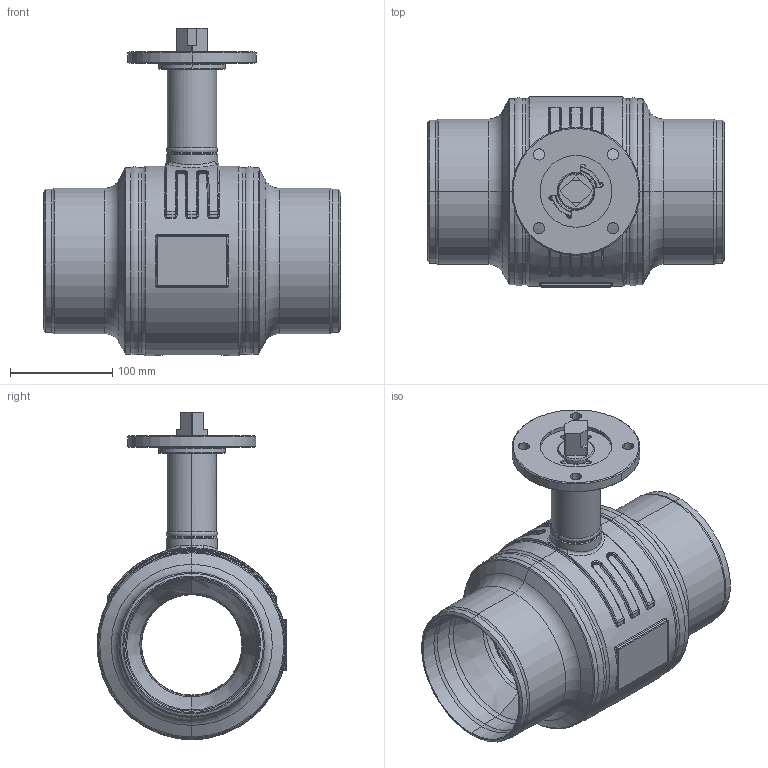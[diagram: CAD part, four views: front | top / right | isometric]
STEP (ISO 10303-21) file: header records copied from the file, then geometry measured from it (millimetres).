
FILE_DESCRIPTION((''),'2;1');
FILE_NAME('KHMO-S-R-H-125R100P04_SW0001','2025-04-22T14:41:26',('jeitlers'),('KLINGER'),'CREO PARAMETRIC BY PTC INC, 2023014','CREO PARAMETRIC BY PTC INC, 2023014','');
FILE_SCHEMA(('CONFIG_CONTROL_DESIGN'));
Length unit declared in the file: millimetre
Products named in the file (1): KHMO-S-R-H-125R100P04_SW0001
Bounding box: 290 x 185.5 x 319.5 mm (x, y, z)
Volume: 2438705.1 mm3; surface area: 602809.7 mm2
Topology: 2 solids, 2 shells, 552 faces, 1315 edges, 778 vertices
Faces by surface type: cylinder 190, torus 116, plane 104, cone 82, bspline 52, sphere 8
Entity records: 28128 total; most frequent: CARTESIAN_POINT 15350, DIRECTION 2831, ORIENTED_EDGE 2614, EDGE_CURVE 1307, AXIS2_PLACEMENT_3D 1198, VERTEX_POINT 778, CIRCLE 698, EDGE_LOOP 599
